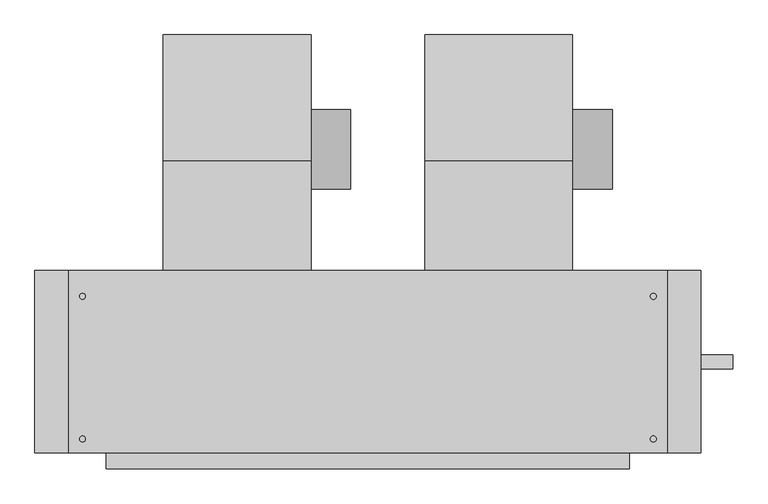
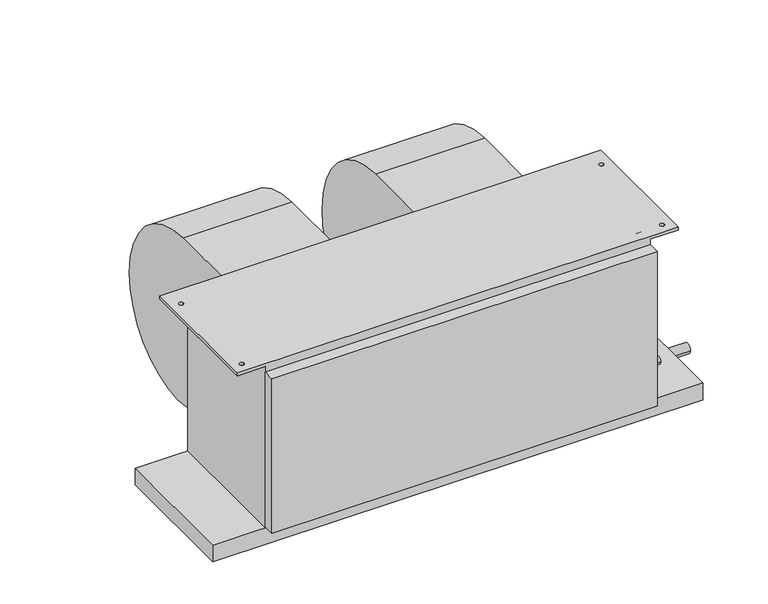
"""IFC4 building model written with IfcOpenShell, lengths in millimetres: proxy geometry, Concealed_High_Capacity_Horizontal_Fan_Coil_Unit_-_42DAA_-_CARRIER_-_4-Pipe_RH_2022 : Size 14 - 277v/60Hz/1Ph - 6/2 Coil."""

from ifc_helpers import new_model, si_unit, point, frame, frame_2d, origin, place, context, project, spatial, polyline, circle_curve, trimmed, segment, composite_curve, outline, extrude, source, transform, mapped, element, save
from ifc_brep_helpers import plane_surface, cylinder_surface, revolved_surface, advanced_brep


def mechanical_equipment_e92b93c2(model_context):
    return source(origin(), model_context, "Body", "SolidModel", [
        extrude(outline(composite_curve([segment(trimmed(circle_curve(frame_2d((117.8757598, -213.2397468)), 63.5), [point((181.3757598, -213.2397468))], [point((54.3757598, -213.2397468))], False, "CARTESIAN"), True, "CONTINUOUS"), segment(trimmed(circle_curve(frame_2d((117.8757598, -213.2397468)), 63.5), [point((54.3757598, -213.2397468))], [point((181.3757598, -213.2397468))], False, "CARTESIAN"), True, "CONTINUOUS")], self_intersect=False)), frame((188.087, 0.0, 0.0), z_axis=(1.0, 0.0, 0.0), x_axis=(0.0, 1.0, 0.0)), (0.0, 0.0, 1.0), 63.5),
        advanced_brep(
        [(-48.387, 301.3905957, -228.379602), (-48.387, 120.4976, -409.99664), (-48.387, -35.0266, -283.45638), (-48.387, -76.2, -283.45638), (-48.387, -76.2, -25.4), (-48.387, 98.8830093, -25.4), (188.087, 301.3905957, -228.379602), (188.087, 98.8830093, -25.4), (188.087, -76.2, -25.4), (188.087, -76.2, -283.45638), (188.087, -35.0266, -283.45638), (188.087, 120.497599, -409.9957839)],
        [
            (0, 1, circle_curve(frame((-48.387, 120.31726, -228.92258), z_axis=(-1.0, 0.0, 0.0), x_axis=(0.0, -1.0, 0.0)), 181.0741498)),
            (1, 2, circle_curve(frame((-48.387, 120.31726, -251.37364), z_axis=(-1.0, 0.0, 0.0), x_axis=(0.0, -1.0, 0.0)), 158.6222464)),
            (2, 3),
            (3, 4),
            (4, 5),
            (5, 0, circle_curve(frame((-48.387, 97.8662, -228.92258), z_axis=(-1.0, 0.0, 0.0), x_axis=(0.0, -1.0, 0.0)), 203.52512)),
            (6, 7, circle_curve(frame((188.087, 97.8662, -228.92258), z_axis=(1.0, 0.0, 0.0), x_axis=(0.0, -1.0, 0.0)), 203.52512)),
            (7, 8),
            (8, 9),
            (9, 10),
            (10, 11, circle_curve(frame((188.087, 120.31726, -251.37364), z_axis=(1.0, 0.0, 0.0), x_axis=(0.0, -1.0, 0.0)), 158.6222464)),
            (11, 6, circle_curve(frame((188.087, 120.31726, -228.92258), z_axis=(1.0, 0.0, 0.0), x_axis=(0.0, -1.0, 0.0)), 181.0741498)),
            (0, 6),
            (11, 1),
            (10, 2),
            (9, 3),
            (8, 4),
            (7, 5),
        ],
        [
            plane_surface(frame((-48.387, -60.7568898, -228.92258), z_axis=(-1.0, 0.0, 0.0), x_axis=(0.0, 0.0, 1.0))),
            plane_surface(frame((188.087, -60.7568898, -228.92258), z_axis=(1.0, 0.0, 0.0), x_axis=(0.0, 0.0, -1.0))),
            cylinder_surface(frame((188.087, 120.31726, -228.92258), z_axis=(-1.0, 0.0, 0.0), x_axis=(0.0, -1.0, 0.0)), 181.0741498),
            cylinder_surface(frame((188.087, 120.31726, -251.37364), z_axis=(-1.0, 0.0, 0.0), x_axis=(0.0, -1.0, 0.0)), 158.6222464),
            plane_surface(frame((-48.387, -35.0266, -283.45638), z_axis=(0.0, 0.0, -1.0), x_axis=(1.0, 0.0, 0.0))),
            plane_surface(frame((-48.387, -76.2, -283.45638), z_axis=(0.0, -1.0, 0.0), x_axis=(1.0, 0.0, 0.0))),
            plane_surface(frame((-48.387, -76.2, -25.4), z_axis=(0.0, 0.0, 1.0), x_axis=(1.0, 0.0, 0.0))),
            cylinder_surface(frame((188.087, 97.8662, -228.92258), z_axis=(-1.0, 0.0, 0.0), x_axis=(0.0, -1.0, 0.0)), 203.52512),
        ],
        [
            (0, [[1, 2, 3, 4, 5, 6]]),
            (1, [[7, 8, 9, 10, 11, 12]]),
            (2, [[-1, 13, -12, 14]]),
            (3, [[-2, -14, -11, 15]]),
            (4, [[-3, -15, -10, 16]]),
            (5, [[-4, -16, -9, 17]]),
            (6, [[-5, -17, -8, 18]]),
            (7, [[-6, -18, -7, -13]]),
        ],
    ),
        extrude(outline(composite_curve([segment(trimmed(circle_curve(frame_2d((117.8757598, -213.2397468)), 63.5), [point((181.3757598, -213.2397468))], [point((54.3757598, -213.2397468))], False, "CARTESIAN"), True, "CONTINUOUS"), segment(trimmed(circle_curve(frame_2d((117.8757598, -213.2397468)), 63.5), [point((54.3757598, -213.2397468))], [point((181.3757598, -213.2397468))], False, "CARTESIAN"), True, "CONTINUOUS")], self_intersect=False)), frame((607.187, 0.0, 0.0), z_axis=(1.0, 0.0, 0.0), x_axis=(0.0, 1.0, 0.0)), (0.0, 0.0, 1.0), 63.5),
        advanced_brep(
        [(370.713, 301.3905957, -228.379602), (370.713, 120.4976, -409.99664), (370.713, -35.0266, -283.45638), (370.713, -76.2, -283.45638), (370.713, -76.2, -25.4), (370.713, 98.8830093, -25.4), (607.187, 301.3905957, -228.379602), (607.187, 98.8830093, -25.4), (607.187, -76.2, -25.4), (607.187, -76.2, -283.45638), (607.187, -35.0266, -283.45638), (607.187, 120.497599, -409.9957839)],
        [
            (0, 1, circle_curve(frame((370.713, 120.31726, -228.92258), z_axis=(-1.0, 0.0, 0.0), x_axis=(0.0, -1.0, 0.0)), 181.0741498)),
            (1, 2, circle_curve(frame((370.713, 120.31726, -251.37364), z_axis=(-1.0, 0.0, 0.0), x_axis=(0.0, -1.0, 0.0)), 158.6222464)),
            (2, 3),
            (3, 4),
            (4, 5),
            (5, 0, circle_curve(frame((370.713, 97.8662, -228.92258), z_axis=(-1.0, 0.0, 0.0), x_axis=(0.0, -1.0, 0.0)), 203.52512)),
            (6, 7, circle_curve(frame((607.187, 97.8662, -228.92258), z_axis=(1.0, 0.0, 0.0), x_axis=(0.0, -1.0, 0.0)), 203.52512)),
            (7, 8),
            (8, 9),
            (9, 10),
            (10, 11, circle_curve(frame((607.187, 120.31726, -251.37364), z_axis=(1.0, 0.0, 0.0), x_axis=(0.0, -1.0, 0.0)), 158.6222464)),
            (11, 6, circle_curve(frame((607.187, 120.31726, -228.92258), z_axis=(1.0, 0.0, 0.0), x_axis=(0.0, -1.0, 0.0)), 181.0741498)),
            (0, 6),
            (11, 1),
            (10, 2),
            (9, 3),
            (8, 4),
            (7, 5),
        ],
        [
            plane_surface(frame((370.713, -60.7568898, -228.92258), z_axis=(-1.0, 0.0, 0.0), x_axis=(0.0, 0.0, 1.0))),
            plane_surface(frame((607.187, -60.7568898, -228.92258), z_axis=(1.0, 0.0, 0.0), x_axis=(0.0, 0.0, -1.0))),
            cylinder_surface(frame((607.187, 120.31726, -228.92258), z_axis=(-1.0, 0.0, 0.0), x_axis=(0.0, -1.0, 0.0)), 181.0741498),
            cylinder_surface(frame((607.187, 120.31726, -251.37364), z_axis=(-1.0, 0.0, 0.0), x_axis=(0.0, -1.0, 0.0)), 158.6222464),
            plane_surface(frame((370.713, -35.0266, -283.45638), z_axis=(0.0, 0.0, -1.0), x_axis=(1.0, 0.0, 0.0))),
            plane_surface(frame((370.713, -76.2, -283.45638), z_axis=(0.0, -1.0, 0.0), x_axis=(1.0, 0.0, 0.0))),
            plane_surface(frame((370.713, -76.2, -25.4), z_axis=(0.0, 0.0, 1.0), x_axis=(1.0, 0.0, 0.0))),
            cylinder_surface(frame((607.187, 97.8662, -228.92258), z_axis=(-1.0, 0.0, 0.0), x_axis=(0.0, -1.0, 0.0)), 203.52512),
        ],
        [
            (0, [[1, 2, 3, 4, 5, 6]]),
            (1, [[7, 8, 9, 10, 11, 12]]),
            (2, [[-1, 13, -12, 14]]),
            (3, [[-2, -14, -11, 15]]),
            (4, [[-3, -15, -10, 16]]),
            (5, [[-4, -16, -9, 17]]),
            (6, [[-5, -17, -8, 18]]),
            (7, [[-6, -18, -7, -13]]),
        ],
    ),
        extrude(outline(polyline([(812.8, -76.2), (812.8, -368.3), (-254.0, -368.3), (-254.0, -76.2), (812.8, -76.2)])), frame((0.0, 0.0, -415.925), z_axis=(0.0, 0.0, 1.0), x_axis=(1.0, 0.0, 0.0)), (0.0, 0.0, 1.0), 38.1),
        extrude(outline(polyline([(698.5, -393.7), (-139.7, -393.7), (-139.7, -368.3), (698.5, -368.3), (698.5, -393.7)])), frame((0.0, 0.0, -374.65), z_axis=(0.0, 0.0, 1.0), x_axis=(1.0, 0.0, 0.0)), (0.0, 0.0, 1.0), 355.6),
        extrude(outline(composite_curve([segment(trimmed(circle_curve(frame_2d((-222.25, -403.225)), 11.1125), [point((-233.3625, -403.225))], [point((-211.1375, -403.225))], False, "CARTESIAN"), True, "CONTINUOUS"), segment(trimmed(circle_curve(frame_2d((-222.25, -403.225)), 11.1125), [point((-211.1375, -403.225))], [point((-233.3625, -403.225))], False, "CARTESIAN"), True, "CONTINUOUS")], self_intersect=False)), frame((812.8, 0.0, 0.0), z_axis=(1.0, 0.0, 0.0), x_axis=(0.0, 1.0, 0.0)), (0.0, 0.0, 1.0), 50.8),
        extrude(outline(composite_curve([segment(trimmed(circle_curve(frame_2d((-187.325, -122.2375)), 11.1125), [point((-176.2125, -122.2375))], [point((-198.4375, -122.2375))], False, "CARTESIAN"), True, "CONTINUOUS"), segment(trimmed(circle_curve(frame_2d((-187.325, -122.2375)), 11.1125), [point((-198.4375, -122.2375))], [point((-176.2125, -122.2375))], False, "CARTESIAN"), True, "CONTINUOUS")], self_intersect=False)), frame((698.5, 0.0, 0.0), z_axis=(1.0, 0.0, 0.0), x_axis=(0.0, 1.0, 0.0)), (0.0, 0.0, 1.0), 50.8),
        extrude(outline(composite_curve([segment(trimmed(circle_curve(frame_2d((-269.875, -265.1125)), 11.1125), [point((-258.7625, -265.1125))], [point((-280.9875, -265.1125))], False, "CARTESIAN"), True, "CONTINUOUS"), segment(trimmed(circle_curve(frame_2d((-269.875, -265.1125)), 11.1125), [point((-280.9875, -265.1125))], [point((-258.7625, -265.1125))], False, "CARTESIAN"), True, "CONTINUOUS")], self_intersect=False)), frame((698.5, 0.0, 0.0), z_axis=(1.0, 0.0, 0.0), x_axis=(0.0, 1.0, 0.0)), (0.0, 0.0, 1.0), 50.8),
        extrude(outline(composite_curve([segment(trimmed(circle_curve(frame_2d((-311.15, -19.05)), 7.9375), [point((-303.2125, -19.05))], [point((-319.0875, -19.05))], False, "CARTESIAN"), True, "CONTINUOUS"), segment(trimmed(circle_curve(frame_2d((-311.15, -19.05)), 7.9375), [point((-319.0875, -19.05))], [point((-303.2125, -19.05))], False, "CARTESIAN"), True, "CONTINUOUS")], self_intersect=False)), frame((698.5, 0.0, 0.0), z_axis=(1.0, 0.0, 0.0), x_axis=(0.0, 1.0, 0.0)), (0.0, 0.0, 1.0), 50.8),
        extrude(outline(composite_curve([segment(trimmed(circle_curve(frame_2d((-311.15, -336.55)), 7.9375), [point((-303.2125, -336.55))], [point((-319.0875, -336.55))], False, "CARTESIAN"), True, "CONTINUOUS"), segment(trimmed(circle_curve(frame_2d((-311.15, -336.55)), 7.9375), [point((-319.0875, -336.55))], [point((-303.2125, -336.55))], False, "CARTESIAN"), True, "CONTINUOUS")], self_intersect=False)), frame((698.5, 0.0, 0.0), z_axis=(1.0, 0.0, 0.0), x_axis=(0.0, 1.0, 0.0)), (0.0, 0.0, 1.0), 50.8),
        advanced_brep(
        [(698.5, -76.2, -377.825), (698.5, -368.3, -377.825), (-139.7, -368.3, -377.825), (-139.7, -76.2, -377.825), (-139.7, -368.3, -6.35), (-139.7, -76.2, -6.35), (698.5, -76.2, -6.35), (698.5, -368.3, -6.35), (-200.025, -76.2, 0.0), (-200.025, -368.3, 0.0), (758.825, -368.3, 0.0), (758.825, -76.2, 0.0), (-173.0375, -117.475, 0.0), (-182.5625, -117.475, 0.0), (-173.0375, -346.075, 0.0), (-182.5625, -346.075, 0.0), (741.3625, -117.475, 0.0), (731.8375, -117.475, 0.0), (741.3625, -346.075, 0.0), (731.8375, -346.075, 0.0), (-200.025, -76.2, -6.35), (-200.025, -368.3, -6.35), (-182.5625, -117.475, -6.35), (-173.0375, -117.475, -6.35), (-182.5625, -346.075, -6.35), (-173.0375, -346.075, -6.35), (758.825, -76.2, -6.35), (758.825, -368.3, -6.35), (731.8375, -117.475, -6.35), (741.3625, -117.475, -6.35), (731.8375, -346.075, -6.35), (741.3625, -346.075, -6.35)],
        [
            (0, 1),
            (1, 2),
            (2, 3),
            (3, 0),
            (2, 4),
            (4, 5),
            (5, 3),
            (0, 6),
            (6, 7),
            (7, 1),
            (8, 9),
            (9, 10),
            (10, 11),
            (11, 8),
            (12, 13, circle_curve(frame((-177.8, -117.475, 0.0), z_axis=(0.0, 0.0, -1.0), x_axis=(1.0, 0.0, 0.0)), 4.7625)),
            (13, 12, circle_curve(frame((-177.8, -117.475, 0.0), z_axis=(0.0, 0.0, -1.0), x_axis=(1.0, 0.0, 0.0)), 4.7625)),
            (14, 15, circle_curve(frame((-177.8, -346.075, 0.0), z_axis=(0.0, 0.0, -1.0), x_axis=(1.0, 0.0, 0.0)), 4.7625)),
            (15, 14, circle_curve(frame((-177.8, -346.075, 0.0), z_axis=(0.0, 0.0, -1.0), x_axis=(1.0, 0.0, 0.0)), 4.7625)),
            (16, 17, circle_curve(frame((736.6, -117.475, 0.0), z_axis=(0.0, 0.0, -1.0), x_axis=(1.0, 0.0, 0.0)), 4.7625)),
            (17, 16, circle_curve(frame((736.6, -117.475, 0.0), z_axis=(0.0, 0.0, -1.0), x_axis=(1.0, 0.0, 0.0)), 4.7625)),
            (18, 19, circle_curve(frame((736.6, -346.075, 0.0), z_axis=(0.0, 0.0, -1.0), x_axis=(1.0, 0.0, 0.0)), 4.7625)),
            (19, 18, circle_curve(frame((736.6, -346.075, 0.0), z_axis=(0.0, 0.0, -1.0), x_axis=(1.0, 0.0, 0.0)), 4.7625)),
            (20, 5),
            (4, 21),
            (21, 20),
            (22, 23, circle_curve(frame((-177.8, -117.475, -6.35), z_axis=(0.0, 0.0, 1.0), x_axis=(1.0, 0.0, 0.0)), 4.7625)),
            (23, 22, circle_curve(frame((-177.8, -117.475, -6.35), z_axis=(0.0, 0.0, 1.0), x_axis=(1.0, 0.0, 0.0)), 4.7625)),
            (24, 25, circle_curve(frame((-177.8, -346.075, -6.35), z_axis=(0.0, 0.0, 1.0), x_axis=(1.0, 0.0, 0.0)), 4.7625)),
            (25, 24, circle_curve(frame((-177.8, -346.075, -6.35), z_axis=(0.0, 0.0, 1.0), x_axis=(1.0, 0.0, 0.0)), 4.7625)),
            (26, 27),
            (27, 7),
            (6, 26),
            (28, 29, circle_curve(frame((736.6, -117.475, -6.35), z_axis=(0.0, 0.0, 1.0), x_axis=(1.0, 0.0, 0.0)), 4.7625)),
            (29, 28, circle_curve(frame((736.6, -117.475, -6.35), z_axis=(0.0, 0.0, 1.0), x_axis=(1.0, 0.0, 0.0)), 4.7625)),
            (30, 31, circle_curve(frame((736.6, -346.075, -6.35), z_axis=(0.0, 0.0, 1.0), x_axis=(1.0, 0.0, 0.0)), 4.7625)),
            (31, 30, circle_curve(frame((736.6, -346.075, -6.35), z_axis=(0.0, 0.0, 1.0), x_axis=(1.0, 0.0, 0.0)), 4.7625)),
            (8, 20),
            (21, 9),
            (27, 10),
            (11, 26),
            (12, 23),
            (22, 13),
            (14, 25),
            (24, 15),
            (16, 29),
            (28, 17),
            (18, 31),
            (30, 19),
        ],
        [
            plane_surface(frame((-139.7, -76.2, -377.825), z_axis=(0.0, 0.0, -1.0), x_axis=(1.0, 0.0, 0.0))),
            plane_surface(frame((-139.7, -76.2, 0.0), z_axis=(-1.0, 0.0, 0.0), x_axis=(0.0, 0.0, -1.0))),
            plane_surface(frame((698.5, -368.3, 0.0), z_axis=(1.0, 0.0, 0.0), x_axis=(0.0, 0.0, -1.0))),
            plane_surface(frame((-200.025, -76.2, 0.0), z_axis=(0.0, 0.0, 1.0), x_axis=(0.0, -1.0, 0.0))),
            plane_surface(frame((-200.025, -76.2, -6.35), z_axis=(0.0, 0.0, -1.0), x_axis=(0.0, 1.0, 0.0))),
            plane_surface(frame((-200.025, -76.2, 0.0), z_axis=(-1.0, 0.0, 0.0), x_axis=(0.0, 0.0, -1.0))),
            plane_surface(frame((-200.025, -368.3, 0.0), z_axis=(0.0, -1.0, 0.0), x_axis=(0.0, 0.0, -1.0))),
            plane_surface(frame((-139.7, -76.2, 0.0), z_axis=(0.0, 1.0, 0.0), x_axis=(0.0, 0.0, -1.0))),
            plane_surface(frame((758.825, -368.3, 0.0), z_axis=(1.0, 0.0, 0.0), x_axis=(0.0, 0.0, -1.0))),
            revolved_surface(polyline([(-173.03750000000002, -117.475, 0.0), (-173.03750000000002, -117.475, -6.35)]), (-177.8, -117.475, -6.35), (0.0, 0.0, 1.0)),
            revolved_surface(polyline([(-173.03750000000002, -346.075, 0.0), (-173.03750000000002, -346.075, -6.35)]), (-177.8, -346.075, 0.0), (0.0, 0.0, 1.0)),
            revolved_surface(polyline([(741.3625000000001, -117.475, 0.0), (741.3625000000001, -117.475, -6.35)]), (736.6, -117.475, 0.0), (0.0, 0.0, 1.0)),
            revolved_surface(polyline([(741.3625000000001, -346.075, 0.0), (741.3625000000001, -346.075, -6.35)]), (736.6, -346.075, 0.0), (0.0, 0.0, 1.0)),
        ],
        [
            (0, [[1, 2, 3, 4]]),
            (1, [[-3, 5, 6, 7]]),
            (2, [[-1, 8, 9, 10]]),
            (3, [[11, 12, 13, 14], [15, 16], [17, 18], [19, 20], [21, 22]]),
            (4, [[23, -6, 24, 25], [26, 27], [28, 29]]),
            (4, [[30, 31, -9, 32], [33, 34], [35, 36]]),
            (5, [[-11, 37, -25, 38]]),
            (6, [[-12, -38, -24, -5, -2, -10, -31, 39]]),
            (7, [[-14, 40, -32, -8, -4, -7, -23, -37]]),
            (8, [[-13, -39, -30, -40]]),
            (9, [[41, -26, 42, -15]]),
            (9, [[-41, -16, -42, -27]]),
            (10, [[43, -28, 44, -17]]),
            (10, [[-43, -18, -44, -29]]),
            (11, [[45, -33, 46, -19]]),
            (11, [[-45, -20, -46, -34]]),
            (12, [[47, -35, 48, -21]]),
            (12, [[-47, -22, -48, -36]]),
        ],
    ),
    ])


if __name__ == "__main__":
    model = new_model("IFC4")
    model_context = context("Model", 3, world=origin())
    ifc_project = project(units=[si_unit("LENGTHUNIT", "METRE", prefix="MILLI")], contexts=[model_context])
    site = spatial("IfcSite", under=ifc_project)
    building = spatial("IfcBuilding", under=site)
    placement = place(None, origin())
    mechanical_equipment_shape = mechanical_equipment_e92b93c2(model_context)
    element("IfcBuildingElementProxy", 1, Name="Concealed_High_Capacity_Horizontal_Fan_Coil_Unit_-_42DAA_-_CARRIER_-_4-Pipe_RH_2022 : Size 14 - 277v/60Hz/1Ph - 6/2 Coil", ObjectType="Concealed_High_Capacity_Horizontal_Fan_Coil_Unit_-_42DAA_-_CARRIER_-_4-Pipe_RH_2022 : Size 14 - 277v/60Hz/1Ph - 6/2 Coil", at=placement, inside=building, context=model_context, shape_type="MappedRepresentation", body=[
        mapped(mechanical_equipment_shape, transform((0.0, 0.0, 0.0), x_axis=(1.0, 0.0, 0.0), y_axis=(0.0, 1.0, 0.0), z_axis=(0.0, 0.0, 1.0))),
    ])
    save(model, "model.ifc")
